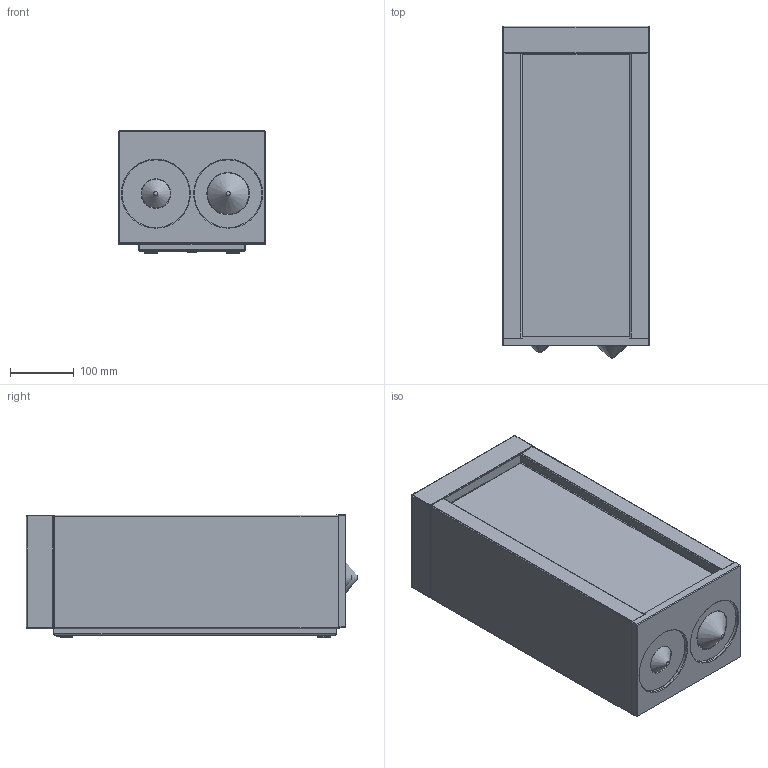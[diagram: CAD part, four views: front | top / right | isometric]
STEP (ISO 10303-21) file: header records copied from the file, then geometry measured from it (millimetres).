
FILE_DESCRIPTION(/* description */ (''),/* implementation_level */ '2;1');
FILE_NAME(/* name */ 'D:\Projekte\WMF\am\039199\20171231\stp\03_9199_0000_3D.stp',/* time_stamp */ '2017-12-31T13:12:44+01:00',/* author */ ('AM'),/* organization */ (''),/* preprocessor_version */ 'ST-DEVELOPER v16.1',/* originating_system */ 'Autodesk Inventor 2016',/* authorisation */ '');
FILE_SCHEMA (('AUTOMOTIVE_DESIGN { 1 0 10303 214 3 1 1 }'));
Length unit declared in the file: millimetre
Products named in the file (1): 03_9199_0000_3D
Bounding box: 230 x 519.41 x 191.8 mm (x, y, z)
Volume: 833398.1 mm3; surface area: 1073150.8 mm2
Topology: 4 solids, 4 shells, 497 faces, 1079 edges, 632 vertices
Faces by surface type: plane 322, cylinder 115, torus 30, bspline 22, cone 6, sphere 2
Full cylindrical faces by diameter (mm): 2.87 x6, 3.87 x6, 4.05 x12, 14.8 x1, 20 x4, 106 x2
Entity records: 13894 total; most frequent: CARTESIAN_POINT 3279, DIRECTION 2226, ORIENTED_EDGE 2018, EDGE_CURVE 1009, AXIS2_PLACEMENT_3D 779, LINE 668, VECTOR 668, EDGE_LOOP 632
